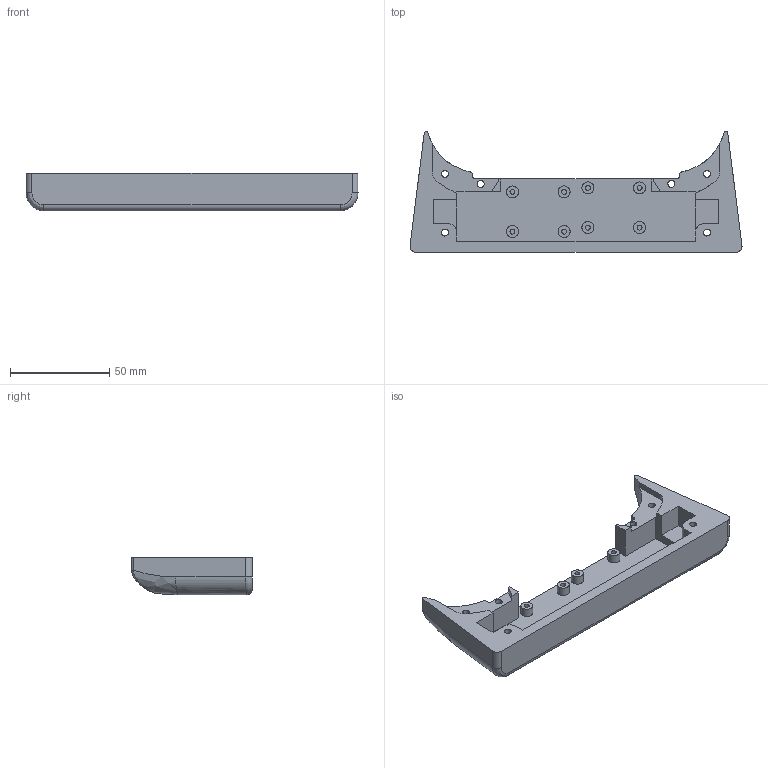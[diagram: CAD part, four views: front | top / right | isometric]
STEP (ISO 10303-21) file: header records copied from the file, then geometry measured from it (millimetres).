
FILE_DESCRIPTION(/* description */ (''),/* implementation_level */ '2;1');
FILE_NAME(/* name */ 'GRIP-2-L',/* time_stamp */ '2015-10-29T17:14:53+09:00',/* author */ (''),/* organization */ (''),/* preprocessor_version */ 'ST-DEVELOPER v15',/* originating_system */ '',/* authorisation */ '');
FILE_SCHEMA (('CONFIG_CONTROL_DESIGN'));
Length unit declared in the file: millimetre
Products named in the file (1): Document
Bounding box: 167.2 x 60.85 x 19 mm (x, y, z)
Volume: 59830.1 mm3; surface area: 26285.9 mm2
Topology: 1 solids, 1 shells, 164 faces, 412 edges, 268 vertices
Faces by surface type: bspline 98, plane 66
Entity records: 5557 total; most frequent: CARTESIAN_POINT 2975, ORIENTED_EDGE 824, EDGE_CURVE 412, VERTEX_POINT 268, B_SPLINE_CURVE_WITH_KNOTS 226, EDGE_LOOP 194, ADVANCED_FACE 164, FACE_OUTER_BOUND 164
